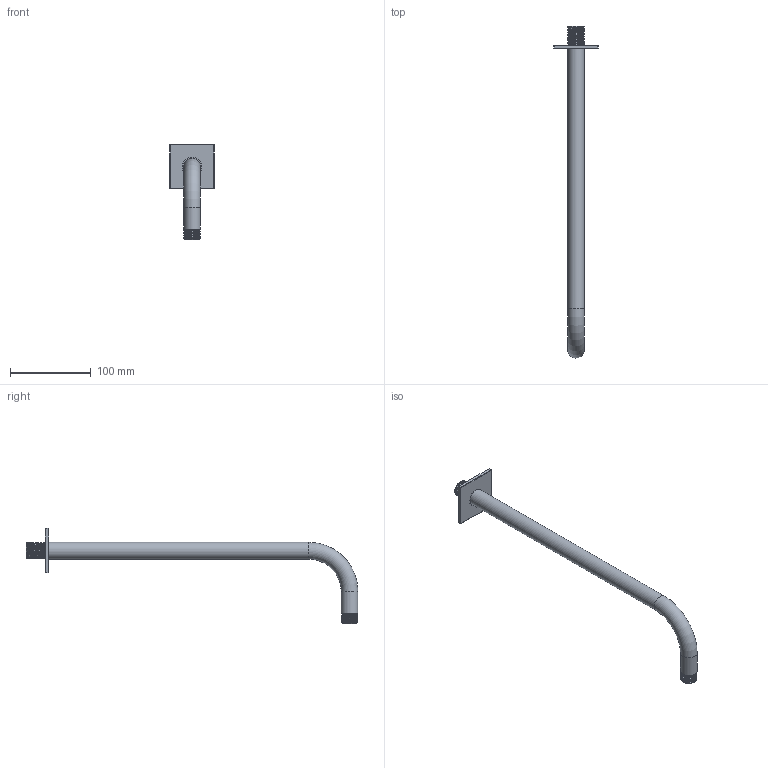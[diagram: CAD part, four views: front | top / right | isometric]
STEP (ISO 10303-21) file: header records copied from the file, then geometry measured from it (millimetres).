
FILE_DESCRIPTION(/* description */ (''),/* implementation_level */ '2;1');
FILE_NAME(/* name */ 'c:\worker\convert-fusion-r02\tmp\job-1\8\output\files\cd0188c8-23a1-4b28-be86-7c8bc6957a27\a2eae2df-c102-49bf-ac74-da99e740a3bb.stp',/* time_stamp */ '2020-03-10T10:19:12+00:00',/* author */ (''),/* organization */ (''),/* preprocessor_version */ 'ST-DEVELOPER v18',/* originating_system */ 'Autodesk Translation Framework v8.12.0.6',/* authorisation */ '');
FILE_SCHEMA (('AUTOMOTIVE_DESIGN { 1 0 10303 214 3 1 1 }'));
Length unit declared in the file: millimetre
Products named in the file (1): !RA01C/K
Bounding box: 55 x 410.35 x 117.5 mm (x, y, z)
Volume: 56663.7 mm3; surface area: 64017.3 mm2
Topology: 2 solids, 2 shells, 84 faces, 218 edges, 144 vertices
Faces by surface type: cylinder 56, plane 16, sphere 4, bspline 4, cone 2, torus 2
Full cylindrical faces by diameter (mm): 17 x2, 17.534 x15, 19.822 x16, 20.7 x2, 21.5 x2, 24 x1, 27 x1, 50 x1
Entity records: 7364 total; most frequent: CARTESIAN_POINT 5379, ORIENTED_EDGE 436, DIRECTION 360, EDGE_CURVE 218, AXIS2_PLACEMENT_3D 147, VERTEX_POINT 144, EDGE_LOOP 94, B_SPLINE_CURVE_WITH_KNOTS 86
